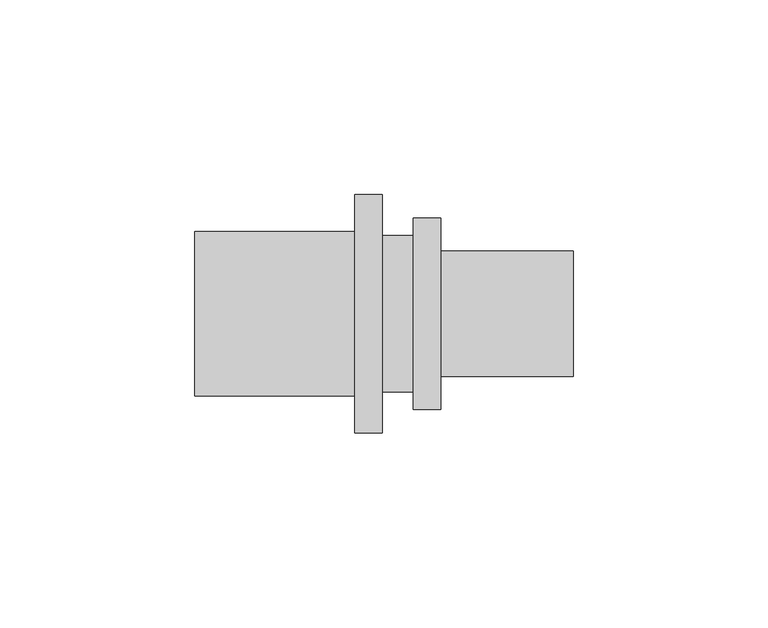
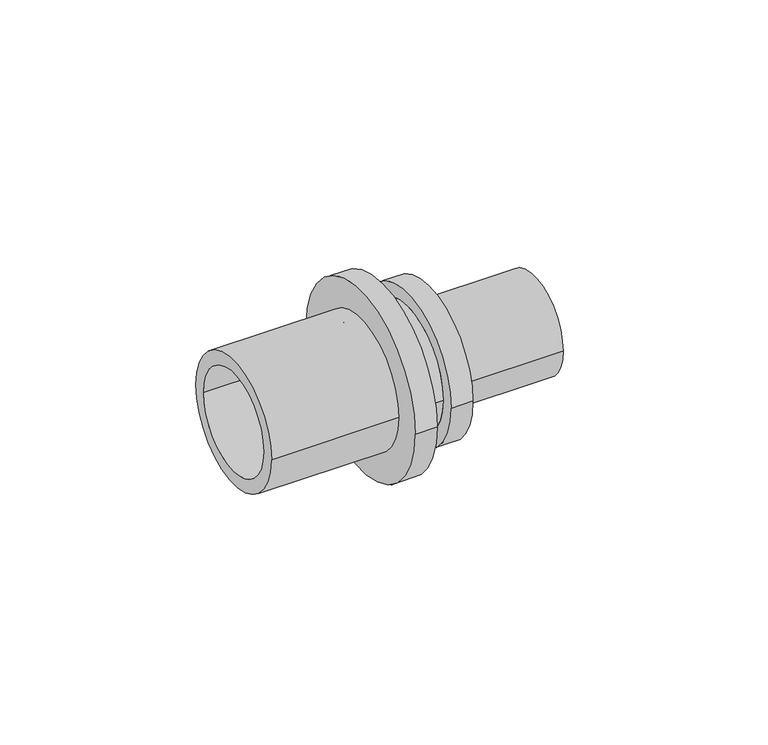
"""IFC4 building model written with IfcOpenShell, lengths in millimetres: pipe fitting geometry, RAUTITAN_Transition_RX+ stabil : RTI RX+ stabil Tr DE."""

from ifc_helpers import new_model, si_unit, frame, origin, place, context, project, spatial, polyline, circle_curve, source, transform, mapped, element, save
from ifc_brep_helpers import plane_surface, cylinder_surface, revolved_surface, advanced_brep


def pipe_fitting_d806b147(model_context):
    return source(origin(), model_context, "Body", "AdvancedBrep", [
        advanced_brep(
        [(-52.0, 16.75, 0.0), (-52.0, -16.75, 0.0), (-11.0, -16.75, 0.0), (-11.0, 16.75, 0.0), (4.0, 20.05, 0.0), (4.0, -20.05, 0.0), (-4.0, -20.05, 0.0), (-4.0, 20.05, 0.0), (11.0, 24.55, 0.0), (11.0, -24.55, 0.0), (4.0, -24.55, 0.0), (4.0, 24.55, 0.0), (45.0, 16.05, 0.0), (45.0, -16.05, 0.0), (11.0, -16.05, 0.0), (11.0, 16.05, 0.0), (-6.0, 11.75, 0.0), (-6.0, -11.75, 0.0), (45.0, -11.75, 0.0), (45.0, 11.75, 0.0), (-4.0, 30.55, 0.0), (-4.0, -30.55, 0.0), (-11.0, 21.15, 0.0), (-11.0, -21.15, 0.0), (-52.0, -21.15, 0.0), (-52.0, 21.15, 0.0), (-11.0, -30.55, 0.0), (-11.0, 30.55, 0.0)],
        [
            (0, 1, circle_curve(frame((-52.0, 0.0, 0.0), z_axis=(-1.0, 0.0, 0.0), x_axis=(0.0, -1.0, 0.0)), 16.75)),
            (1, 2),
            (2, 3, circle_curve(frame((-11.0, 0.0, 0.0), z_axis=(1.0, 0.0, 0.0), x_axis=(0.0, -1.0, 0.0)), 16.75)),
            (3, 0),
            (4, 5, circle_curve(frame((4.0, 0.0, 0.0), z_axis=(-1.0, 0.0, 0.0), x_axis=(0.0, -1.0, 0.0)), 20.05)),
            (5, 6),
            (6, 7, circle_curve(frame((-4.0, 0.0, 0.0), z_axis=(1.0, 0.0, 0.0), x_axis=(0.0, -1.0, 0.0)), 20.05)),
            (7, 4),
            (8, 9, circle_curve(frame((11.0, 0.0, 0.0), z_axis=(-1.0, 0.0, 0.0), x_axis=(0.0, -1.0, 0.0)), 24.55)),
            (9, 10),
            (10, 11, circle_curve(frame((4.0, 0.0, 0.0), z_axis=(1.0, 0.0, 0.0), x_axis=(0.0, -1.0, 0.0)), 24.55)),
            (11, 8),
            (12, 13, circle_curve(frame((45.0, 0.0, 0.0), z_axis=(-1.0, 0.0, 0.0), x_axis=(0.0, -1.0, 0.0)), 16.05)),
            (13, 14),
            (14, 15, circle_curve(frame((11.0, 0.0, 0.0), z_axis=(1.0, 0.0, 0.0), x_axis=(0.0, -1.0, 0.0)), 16.05)),
            (15, 12),
            (16, 17, circle_curve(frame((-6.0, 0.0, 0.0), z_axis=(-1.0, 0.0, 0.0), x_axis=(0.0, -1.0, 0.0)), 11.75)),
            (17, 18),
            (18, 19, circle_curve(frame((45.0, 0.0, 0.0), z_axis=(1.0, 0.0, 0.0), x_axis=(0.0, -1.0, 0.0)), 11.75)),
            (19, 16),
            (2, 17),
            (16, 3),
            (1, 0, circle_curve(frame((-52.0, 0.0, 0.0), z_axis=(-1.0, 0.0, 0.0), x_axis=(0.0, 1.0, 0.0)), 16.75)),
            (3, 2, circle_curve(frame((-11.0, 0.0, 0.0), z_axis=(1.0, 0.0, 0.0), x_axis=(0.0, 1.0, 0.0)), 16.75)),
            (20, 21, circle_curve(frame((-4.0, 0.0, 0.0), z_axis=(1.0, 0.0, 0.0), x_axis=(0.0, 1.0, 0.0)), 30.55)),
            (21, 20, circle_curve(frame((-4.0, 0.0, 0.0), z_axis=(1.0, 0.0, 0.0), x_axis=(0.0, -1.0, 0.0)), 30.55)),
            (6, 7, circle_curve(frame((-4.0, 0.0, 0.0), z_axis=(-1.0, 0.0, 0.0), x_axis=(0.0, 1.0, 0.0)), 20.05)),
            (5, 4, circle_curve(frame((4.0, 0.0, 0.0), z_axis=(-1.0, 0.0, 0.0), x_axis=(0.0, 1.0, 0.0)), 20.05)),
            (10, 11, circle_curve(frame((4.0, 0.0, 0.0), z_axis=(-1.0, 0.0, 0.0), x_axis=(0.0, 1.0, 0.0)), 24.55)),
            (9, 8, circle_curve(frame((11.0, 0.0, 0.0), z_axis=(-1.0, 0.0, 0.0), x_axis=(0.0, 1.0, 0.0)), 24.55)),
            (14, 15, circle_curve(frame((11.0, 0.0, 0.0), z_axis=(-1.0, 0.0, 0.0), x_axis=(0.0, 1.0, 0.0)), 16.05)),
            (13, 12, circle_curve(frame((45.0, 0.0, 0.0), z_axis=(-1.0, 0.0, 0.0), x_axis=(0.0, 1.0, 0.0)), 16.05)),
            (18, 19, circle_curve(frame((45.0, 0.0, 0.0), z_axis=(-1.0, 0.0, 0.0), x_axis=(0.0, 1.0, 0.0)), 11.75)),
            (17, 16, circle_curve(frame((-6.0, 0.0, 0.0), z_axis=(-1.0, 0.0, 0.0), x_axis=(0.0, 1.0, 0.0)), 11.75)),
            (22, 23, circle_curve(frame((-11.0, 0.0, 0.0), z_axis=(-1.0, 0.0, 0.0), x_axis=(0.0, -1.0, 0.0)), 21.15)),
            (23, 24),
            (24, 25, circle_curve(frame((-52.0, 0.0, 0.0), z_axis=(1.0, 0.0, 0.0), x_axis=(0.0, -1.0, 0.0)), 21.15)),
            (25, 22),
            (21, 26),
            (26, 27, circle_curve(frame((-11.0, 0.0, 0.0), z_axis=(1.0, 0.0, 0.0), x_axis=(0.0, -1.0, 0.0)), 30.55)),
            (27, 20),
            (24, 25, circle_curve(frame((-52.0, 0.0, 0.0), z_axis=(-1.0, 0.0, 0.0), x_axis=(0.0, 1.0, 0.0)), 21.15)),
            (23, 22, circle_curve(frame((-11.0, 0.0, 0.0), z_axis=(-1.0, 0.0, 0.0), x_axis=(0.0, 1.0, 0.0)), 21.15)),
            (26, 27, circle_curve(frame((-11.0, 0.0, 0.0), z_axis=(-1.0, 0.0, 0.0), x_axis=(0.0, 1.0, 0.0)), 30.55)),
        ],
        [
            revolved_surface(polyline([(-11.0, -16.75, 0.0), (-52.0, -16.75, 0.0)]), (0.0, 0.0, 0.0), (1.0, 0.0, 0.0)),
            cylinder_surface(frame((0.0, 0.0, 0.0), z_axis=(1.0, 0.0, 0.0), x_axis=(0.0, -1.0, 0.0)), 20.05),
            cylinder_surface(frame((0.0, 0.0, 0.0), z_axis=(1.0, 0.0, 0.0), x_axis=(0.0, -1.0, 0.0)), 24.55),
            cylinder_surface(frame((0.0, 0.0, 0.0), z_axis=(1.0, 0.0, 0.0), x_axis=(0.0, -1.0, 0.0)), 16.05),
            revolved_surface(polyline([(45.0, -11.75, 0.0), (-6.0, -11.75, 0.0)]), (0.0, 0.0, 0.0), (1.0, 0.0, 0.0)),
            revolved_surface(polyline([(-6.0, -11.75, 0.0), (-11.0, -16.75, 0.0)]), (0.0, 0.0, 0.0), (1.0, 0.0, 0.0)),
            revolved_surface(polyline([(-11.0, 16.75, 0.0), (-52.0, 16.75, 0.0)]), (0.0, 0.0, 0.0), (1.0, 0.0, 0.0)),
            plane_surface(frame((-4.0, 0.0, 0.0), z_axis=(1.0, 0.0, 0.0), x_axis=(0.0, 1.0, 0.0))),
            cylinder_surface(frame((0.0, 0.0, 0.0), z_axis=(1.0, 0.0, 0.0), x_axis=(0.0, 1.0, 0.0)), 20.05),
            plane_surface(frame((4.0, 0.0, 0.0), z_axis=(-1.0, 0.0, 0.0), x_axis=(0.0, 1.0, 0.0))),
            cylinder_surface(frame((0.0, 0.0, 0.0), z_axis=(1.0, 0.0, 0.0), x_axis=(0.0, 1.0, 0.0)), 24.55),
            plane_surface(frame((11.0, 0.0, 0.0), z_axis=(1.0, 0.0, 0.0), x_axis=(0.0, 1.0, 0.0))),
            cylinder_surface(frame((0.0, 0.0, 0.0), z_axis=(1.0, 0.0, 0.0), x_axis=(0.0, 1.0, 0.0)), 16.05),
            plane_surface(frame((45.0, 0.0, 0.0), z_axis=(1.0, 0.0, 0.0), x_axis=(0.0, 1.0, 0.0))),
            revolved_surface(polyline([(45.0, 11.75, 0.0), (-6.0, 11.75, 0.0)]), (0.0, 0.0, 0.0), (1.0, 0.0, 0.0)),
            revolved_surface(polyline([(-6.0, 11.75, 0.0), (-11.0, 16.75, 0.0)]), (0.0, 0.0, 0.0), (1.0, 0.0, 0.0)),
            cylinder_surface(frame((0.0, 0.0, 0.0), z_axis=(1.0, 0.0, 0.0), x_axis=(0.0, -1.0, 0.0)), 21.15),
            cylinder_surface(frame((0.0, 0.0, 0.0), z_axis=(1.0, 0.0, 0.0), x_axis=(0.0, -1.0, 0.0)), 30.55),
            plane_surface(frame((-52.0, 0.0, 0.0), z_axis=(-1.0, 0.0, 0.0), x_axis=(0.0, 1.0, 0.0))),
            cylinder_surface(frame((0.0, 0.0, 0.0), z_axis=(1.0, 0.0, 0.0), x_axis=(0.0, 1.0, 0.0)), 21.15),
            plane_surface(frame((-11.0, 0.0, 0.0), z_axis=(-1.0, 0.0, 0.0), x_axis=(0.0, 1.0, 0.0))),
            cylinder_surface(frame((0.0, 0.0, 0.0), z_axis=(1.0, 0.0, 0.0), x_axis=(0.0, 1.0, 0.0)), 30.55),
        ],
        [
            (0, [[1, 2, 3, 4]]),
            (1, [[5, 6, 7, 8]]),
            (2, [[9, 10, 11, 12]]),
            (3, [[13, 14, 15, 16]]),
            (4, [[17, 18, 19, 20]]),
            (5, [[-3, 21, -17, 22]]),
            (6, [[23, -4, 24, -2]]),
            (7, [[25, 26], [27, -7]]),
            (8, [[28, -8, -27, -6]]),
            (9, [[29, -11], [-28, -5]]),
            (10, [[30, -12, -29, -10]]),
            (11, [[-30, -9], [31, -15]]),
            (12, [[32, -16, -31, -14]]),
            (13, [[-32, -13], [33, -19]]),
            (14, [[34, -20, -33, -18]]),
            (15, [[-24, -22, -34, -21]]),
            (16, [[35, 36, 37, 38]]),
            (17, [[-26, 39, 40, 41]]),
            (18, [[42, -37], [-23, -1]]),
            (19, [[43, -38, -42, -36]]),
            (20, [[44, -40], [-43, -35]]),
            (21, [[-25, -41, -44, -39]]),
        ],
    ),
    ])


if __name__ == "__main__":
    model = new_model("IFC4")
    model_context = context("Model", 3, world=origin())
    ifc_project = project(units=[si_unit("LENGTHUNIT", "METRE", prefix="MILLI")], contexts=[model_context])
    site = spatial("IfcSite", under=ifc_project)
    building = spatial("IfcBuilding", under=site)
    placement = place(None, origin())
    pipe_fitting_shape = pipe_fitting_d806b147(model_context)
    element("IfcPipeFitting", 1, ObjectType="RAUTITAN_Transition_RX+ stabil : RTI RX+ stabil Tr DE", at=placement, inside=building, context=model_context, shape_type="MappedRepresentation", body=[
        mapped(pipe_fitting_shape, transform((0.0, 0.0, 0.0), x_axis=(1.0, 0.0, 0.0), y_axis=(0.0, 1.0, 0.0), z_axis=(0.0, 0.0, 1.0))),
    ])
    save(model, "model.ifc")
